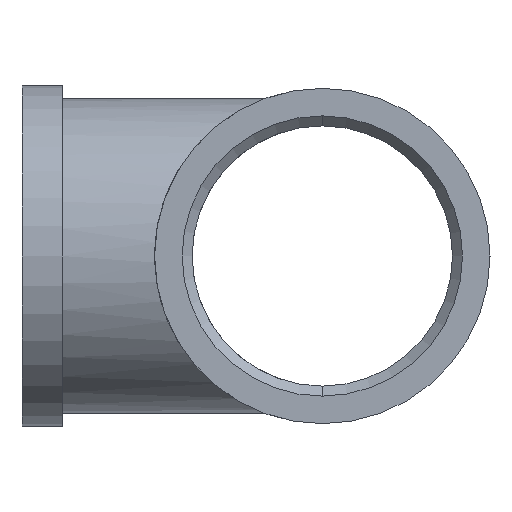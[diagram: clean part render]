
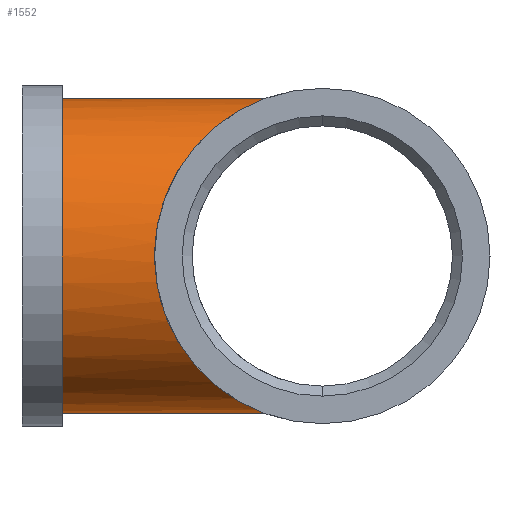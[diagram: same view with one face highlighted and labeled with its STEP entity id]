
A CAD part, left-side view. The second image highlights one B-rep face of the part: STEP entity #1552.
In plain terms, the highlighted cylindrical face has radius 15.75 mm (diameter 31.5 mm), a partial arc.
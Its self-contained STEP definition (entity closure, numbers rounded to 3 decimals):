
#724 = DIRECTION ( 'NONE',  ( 0., 0., -1. ) ) ;
#725 = DIRECTION ( 'NONE',  ( 0., -1., 0. ) ) ;
#726 = CARTESIAN_POINT ( 'NONE',  ( 0., 0., 0. ) ) ;
#727 = AXIS2_PLACEMENT_3D ( 'NONE', #726, #725, #724 ) ;
#728 = CYLINDRICAL_SURFACE ( 'NONE', #727, 15.75 ) ;
#790 = CARTESIAN_POINT ( 'NONE',  ( 0., 0., 15.75 ) ) ;
#791 = CARTESIAN_POINT ( 'NONE',  ( -5.479, 5.479, 15.75 ) ) ;
#792 = CARTESIAN_POINT ( 'NONE',  ( -10.288, 10.288, 13.124 ) ) ;
#793 = CARTESIAN_POINT ( 'NONE',  ( -13.25, 13.25, 8.515 ) ) ;
#794 =( BOUNDED_CURVE ( )  B_SPLINE_CURVE ( 3, ( #793, #792, #791, #790 ),
 .UNSPECIFIED., .F., .T. ) 
 B_SPLINE_CURVE_WITH_KNOTS ( ( 4, 4 ),
 ( 0.571, 1.571 ),
 .UNSPECIFIED. ) 
 CURVE ( )  GEOMETRIC_REPRESENTATION_ITEM ( )  RATIONAL_B_SPLINE_CURVE ( ( 1., 0.918, 0.918, 1. ) ) 
 REPRESENTATION_ITEM ( '' )  );
#863 = FACE_OUTER_BOUND ( 'NONE', #1553, .T. ) ;
#1256 = VERTEX_POINT ( 'NONE', #2513 ) ;
#1259 = EDGE_CURVE ( 'NONE', #1380, #1256, #2508, .T. ) ;
#1263 = VERTEX_POINT ( 'NONE', #2593 ) ;
#1281 = EDGE_CURVE ( 'NONE', #1381, #1282, #2534, .T. ) ;
#1282 = VERTEX_POINT ( 'NONE', #2530 ) ;
#1322 = ORIENTED_EDGE ( 'NONE', *, *, #1561, .T. ) ;
#1325 = EDGE_CURVE ( 'NONE', #1342, #1263, #2727, .T. ) ;
#1341 = EDGE_CURVE ( 'NONE', #1256, #1342, #2752, .T. ) ;
#1342 = VERTEX_POINT ( 'NONE', #2754 ) ;
#1367 = VERTEX_POINT ( 'NONE', #2772 ) ;
#1380 = VERTEX_POINT ( 'NONE', #2892 ) ;
#1381 = VERTEX_POINT ( 'NONE', #2887 ) ;
#1395 = ORIENTED_EDGE ( 'NONE', *, *, #1396, .T. ) ;
#1396 = EDGE_CURVE ( 'NONE', #1381, #1380, #2955, .T. ) ;
#1397 = ORIENTED_EDGE ( 'NONE', *, *, #1259, .T. ) ;
#1398 = ORIENTED_EDGE ( 'NONE', *, *, #1341, .T. ) ;
#1399 = EDGE_CURVE ( 'NONE', #1500, #1367, #2950, .T. ) ;
#1425 = ORIENTED_EDGE ( 'NONE', *, *, #1502, .T. ) ;
#1426 = ORIENTED_EDGE ( 'NONE', *, *, #1399, .T. ) ;
#1427 = ORIENTED_EDGE ( 'NONE', *, *, #1281, .F. ) ;
#1500 = VERTEX_POINT ( 'NONE', #3037 ) ;
#1502 = EDGE_CURVE ( 'NONE', #1263, #1500, #3035, .T. ) ;
#1552 = ADVANCED_FACE ( 'NONE', ( #863 ), #728, .T. ) ;
#1553 = EDGE_LOOP ( 'NONE', ( #1427, #1395, #1397, #1398, #1560, #1425, #1426, #1322 ) ) ;
#1560 = ORIENTED_EDGE ( 'NONE', *, *, #1325, .T. ) ;
#1561 = EDGE_CURVE ( 'NONE', #1367, #1282, #794, .T. ) ;
#2355 = CARTESIAN_POINT ( 'NONE',  ( -14.845, 15.902, 5.275 ) ) ;
#2356 = CARTESIAN_POINT ( 'NONE',  ( -14.967, 16.016, 4.918 ) ) ;
#2357 = CARTESIAN_POINT ( 'NONE',  ( -15.297, 16.324, 3.828 ) ) ;
#2358 = CARTESIAN_POINT ( 'NONE',  ( -15.465, 16.482, 3.083 ) ) ;
#2359 = CARTESIAN_POINT ( 'NONE',  ( -15.635, 16.642, 1.938 ) ) ;
#2360 = CARTESIAN_POINT ( 'NONE',  ( -15.678, 16.683, 1.551 ) ) ;
#2361 = CARTESIAN_POINT ( 'NONE',  ( -15.736, 16.737, 0.768 ) ) ;
#2368 = CARTESIAN_POINT ( 'NONE',  ( -13.44, 14.599, 8.219 ) ) ;
#2369 = CARTESIAN_POINT ( 'NONE',  ( -13.623, 14.767, 7.913 ) ) ;
#2370 = CARTESIAN_POINT ( 'NONE',  ( -13.968, 15.086, 7.286 ) ) ;
#2371 = CARTESIAN_POINT ( 'NONE',  ( -14.131, 15.237, 6.965 ) ) ;
#2372 = CARTESIAN_POINT ( 'NONE',  ( -14.437, 15.522, 6.306 ) ) ;
#2373 = CARTESIAN_POINT ( 'NONE',  ( -14.58, 15.655, 5.969 ) ) ;
#2377 = CARTESIAN_POINT ( 'NONE',  ( -13.25, 14.424, 8.515 ) ) ;
#2378 = CARTESIAN_POINT ( 'NONE',  ( -14.13, 15.237, -6.967 ) ) ;
#2379 = CARTESIAN_POINT ( 'NONE',  ( -15.75, 16.75, 0.374 ) ) ;
#2380 = CARTESIAN_POINT ( 'NONE',  ( -15.749, 16.749, -0.795 ) ) ;
#2381 = CARTESIAN_POINT ( 'NONE',  ( -15.691, 16.694, -1.565 ) ) ;
#2382 = CARTESIAN_POINT ( 'NONE',  ( -15.463, 16.481, -3.089 ) ) ;
#2383 = CARTESIAN_POINT ( 'NONE',  ( -15.291, 16.319, -3.849 ) ) ;
#2384 = CARTESIAN_POINT ( 'NONE',  ( -14.854, 15.911, -5.289 ) ) ;
#2385 = CARTESIAN_POINT ( 'NONE',  ( -14.59, 15.664, -5.977 ) ) ;
#2508 = LINE ( 'NONE', #2568, #2567 ) ;
#2513 = CARTESIAN_POINT ( 'NONE',  ( 0., 0., -15.75 ) ) ;
#2530 = CARTESIAN_POINT ( 'NONE',  ( 0., 0., 15.75 ) ) ;
#2531 = DIRECTION ( 'NONE',  ( 0., -1., 0. ) ) ;
#2532 = VECTOR ( 'NONE', #2531, 1000. ) ;
#2533 = CARTESIAN_POINT ( 'NONE',  ( 0., 0., 15.75 ) ) ;
#2534 = LINE ( 'NONE', #2533, #2532 ) ;
#2566 = DIRECTION ( 'NONE',  ( 0., -1., 0. ) ) ;
#2567 = VECTOR ( 'NONE', #2566, 1000. ) ;
#2568 = CARTESIAN_POINT ( 'NONE',  ( 0., 0., -15.75 ) ) ;
#2593 = CARTESIAN_POINT ( 'NONE',  ( -13.25, 14.424, -8.515 ) ) ;
#2695 = DIRECTION ( 'NONE',  ( 0., 1., 0. ) ) ;
#2696 = VECTOR ( 'NONE', #2695, 1000. ) ;
#2697 = CARTESIAN_POINT ( 'NONE',  ( -13.25, 0., -8.515 ) ) ;
#2698 = CARTESIAN_POINT ( 'NONE',  ( -13.25, 13.25, -8.515 ) ) ;
#2699 = CARTESIAN_POINT ( 'NONE',  ( -10.288, 10.288, -13.124 ) ) ;
#2700 = CARTESIAN_POINT ( 'NONE',  ( -5.479, 5.479, -15.75 ) ) ;
#2701 = CARTESIAN_POINT ( 'NONE',  ( 0., 0., -15.75 ) ) ;
#2727 = LINE ( 'NONE', #2697, #2696 ) ;
#2752 =( BOUNDED_CURVE ( )  B_SPLINE_CURVE ( 3, ( #2701, #2700, #2699, #2698 ),
 .UNSPECIFIED., .F., .T. ) 
 B_SPLINE_CURVE_WITH_KNOTS ( ( 4, 4 ),
 ( 4.712, 5.712 ),
 .UNSPECIFIED. ) 
 CURVE ( )  GEOMETRIC_REPRESENTATION_ITEM ( )  RATIONAL_B_SPLINE_CURVE ( ( 1., 0.918, 0.918, 1. ) ) 
 REPRESENTATION_ITEM ( '' )  );
#2754 = CARTESIAN_POINT ( 'NONE',  ( -13.25, 13.25, -8.515 ) ) ;
#2772 = CARTESIAN_POINT ( 'NONE',  ( -13.25, 13.25, 8.515 ) ) ;
#2887 = CARTESIAN_POINT ( 'NONE',  ( 0., 26., 15.75 ) ) ;
#2892 = CARTESIAN_POINT ( 'NONE',  ( 0., 26., -15.75 ) ) ;
#2921 = DIRECTION ( 'NONE',  ( 0., -1., 0. ) ) ;
#2922 = VECTOR ( 'NONE', #2921, 1000. ) ;
#2923 = CARTESIAN_POINT ( 'NONE',  ( -13.25, 0., 8.515 ) ) ;
#2950 = LINE ( 'NONE', #2923, #2922 ) ;
#2951 = DIRECTION ( 'NONE',  ( 0., 0., -1. ) ) ;
#2952 = DIRECTION ( 'NONE',  ( 0., -1., 0. ) ) ;
#2953 = CARTESIAN_POINT ( 'NONE',  ( 0., 26., 0. ) ) ;
#2954 = AXIS2_PLACEMENT_3D ( 'NONE', #2953, #2952, #2951 ) ;
#2955 = CIRCLE ( 'NONE', #2954, 15.75 ) ;
#2977 = CARTESIAN_POINT ( 'NONE',  ( -13.62, 14.764, -7.918 ) ) ;
#2978 = CARTESIAN_POINT ( 'NONE',  ( -13.966, 15.084, -7.29 ) ) ;
#3022 = CARTESIAN_POINT ( 'NONE',  ( -13.439, 14.598, -8.221 ) ) ;
#3035 = B_SPLINE_CURVE_WITH_KNOTS ( 'NONE', 3,
 ( #3036, #3022, #2977, #2978, #2378, #2385, #2384, #2383, #2382, #2381, #2380, #2379, #2361, #2360, #2359, #2358, #2357, #2356, #2355, #2373, #2372, #2371, #2370, #2369, #2368, #2377 ),
 .UNSPECIFIED., .F., .F.,
 ( 4, 2, 2, 2, 2, 2, 2, 2, 2, 2, 2, 2, 4 ),
 ( 0.018, 0.019, 0.02, 0.023, 0.025, 0.027, 0.029, 0.03, 0.032, 0.033, 0.034, 0.036, 0.037 ),
 .UNSPECIFIED. ) ;
#3036 = CARTESIAN_POINT ( 'NONE',  ( -13.25, 14.424, -8.515 ) ) ;
#3037 = CARTESIAN_POINT ( 'NONE',  ( -13.25, 14.424, 8.515 ) ) ;
